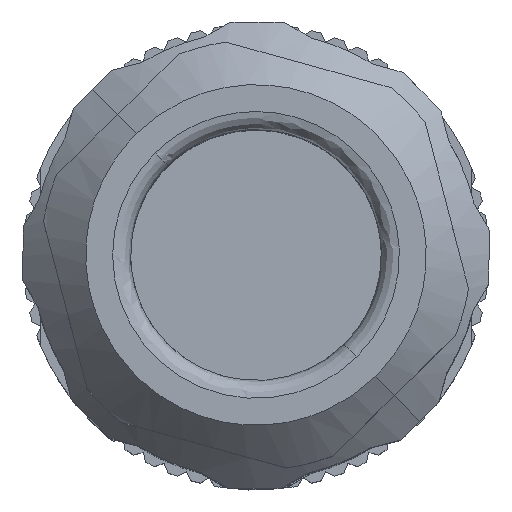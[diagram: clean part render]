
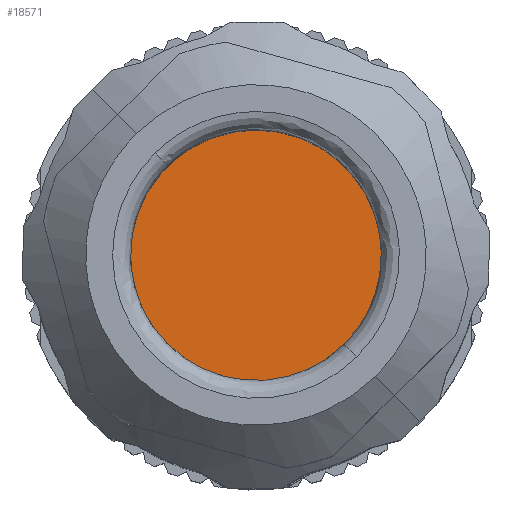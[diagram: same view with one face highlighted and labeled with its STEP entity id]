
A CAD part, top view. The second image highlights one B-rep face of the part: STEP entity #18571.
In plain terms, the highlighted planar face has unit normal (0, 0, 1).
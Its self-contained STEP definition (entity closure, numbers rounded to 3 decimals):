
#2846 = EDGE_CURVE ( 'NONE', #25179, #28085, #19326, .T. ) ;
#3155 = EDGE_LOOP ( 'NONE', ( #17422, #31464 ) ) ;
#3909 = FACE_OUTER_BOUND ( 'NONE', #3155, .T. ) ;
#4085 = CARTESIAN_POINT ( 'NONE',  ( 7., 0., 34.2 ) ) ;
#6274 = AXIS2_PLACEMENT_3D ( 'NONE', #22804, #22922, #19979 ) ;
#6426 = DIRECTION ( 'NONE',  ( 0., 0., -1. ) ) ;
#6542 = DIRECTION ( 'NONE',  ( 1., 0., 0. ) ) ;
#14601 = CARTESIAN_POINT ( 'NONE',  ( 0., 0., 34.2 ) ) ;
#15010 = DIRECTION ( 'NONE',  ( 0., 0., -1. ) ) ;
#16656 = AXIS2_PLACEMENT_3D ( 'NONE', #14601, #6426, #6542 ) ;
#17422 = ORIENTED_EDGE ( 'NONE', *, *, #28069, .F. ) ;
#18571 = ADVANCED_FACE ( 'NONE', ( #3909 ), #28272, .T. ) ;
#19326 = CIRCLE ( 'NONE', #16656, 7. ) ;
#19979 = DIRECTION ( 'NONE',  ( 0., -1., 0. ) ) ;
#22804 = CARTESIAN_POINT ( 'NONE',  ( 0., 0., 34.2 ) ) ;
#22922 = DIRECTION ( 'NONE',  ( 0., 0., 1. ) ) ;
#25179 = VERTEX_POINT ( 'NONE', #25721 ) ;
#25721 = CARTESIAN_POINT ( 'NONE',  ( -7., 0., 34.2 ) ) ;
#28069 = EDGE_CURVE ( 'NONE', #28085, #25179, #34565, .T. ) ;
#28085 = VERTEX_POINT ( 'NONE', #4085 ) ;
#28188 = CARTESIAN_POINT ( 'NONE',  ( 0., 0., 34.2 ) ) ;
#28272 = PLANE ( 'NONE',  #6274 ) ;
#31464 = ORIENTED_EDGE ( 'NONE', *, *, #2846, .F. ) ;
#33967 = DIRECTION ( 'NONE',  ( 1., 0., 0. ) ) ;
#34565 = CIRCLE ( 'NONE', #35009, 7. ) ;
#35009 = AXIS2_PLACEMENT_3D ( 'NONE', #28188, #15010, #33967 ) ;
